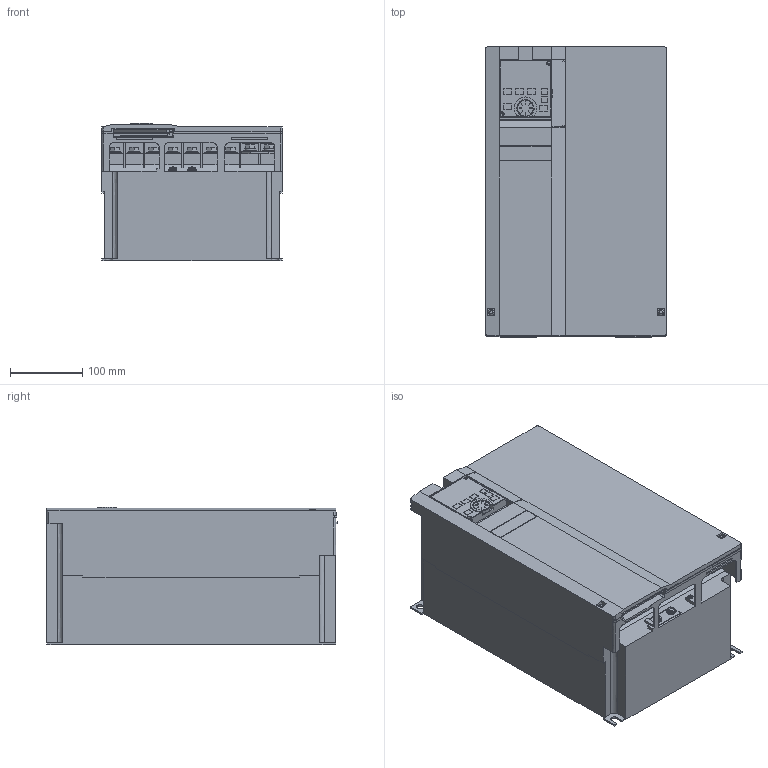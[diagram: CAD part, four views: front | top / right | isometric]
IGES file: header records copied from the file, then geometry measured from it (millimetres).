
Start section:  PTC IGES file: 3d-inv-f8-03_08.igs
Global section: file name: 3d-inv-f8-03_08.igs; native system: Pro/ENGINEER by Parametric Technology Corporation; preprocessor: 2011490; author: PZ79677; organization: Unknown; date: 20140812.160442; units: millimetre
Bounding box: 250 x 402 x 190 mm (x, y, z)
Volume: 15325566.3 mm3; surface area: 969427.7 mm2
Topology: 2 solids, 30 shells, 2326 faces, 6202 edges, 4023 vertices
Faces by surface type: bspline 2326
